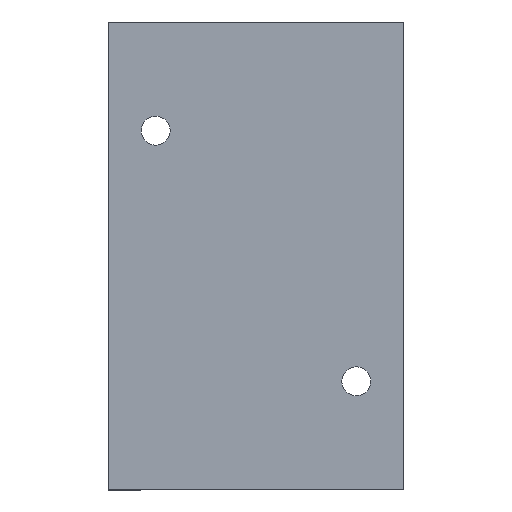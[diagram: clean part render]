
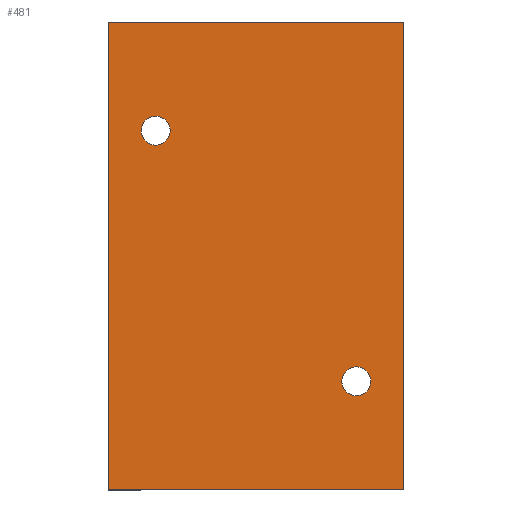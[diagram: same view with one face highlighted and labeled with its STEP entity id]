
A CAD part, front view. The second image highlights one B-rep face of the part: STEP entity #481.
In plain terms, the highlighted planar face has unit normal (0, -1, 0).
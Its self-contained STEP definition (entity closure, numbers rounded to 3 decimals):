
#48 = EDGE_CURVE ( 'NONE', #638, #687, #1235, .T. ) ;
#55 = VECTOR ( 'NONE', #1627, 1000. ) ;
#73 = CIRCLE ( 'NONE', #549, 2.6 ) ;
#113 = VERTEX_POINT ( 'NONE', #1038 ) ;
#124 = EDGE_LOOP ( 'NONE', ( #1065, #1021, #1451, #1618 ) ) ;
#150 = DIRECTION ( 'NONE',  ( 0., 0., -1. ) ) ;
#159 = CARTESIAN_POINT ( 'NONE',  ( -18., -17.5, 22.5 ) ) ;
#170 = CARTESIAN_POINT ( 'NONE',  ( 26.5, -17.5, 42. ) ) ;
#267 = CARTESIAN_POINT ( 'NONE',  ( -26.5, -17.5, 42. ) ) ;
#285 = LINE ( 'NONE', #267, #1516 ) ;
#316 = DIRECTION ( 'NONE',  ( 0., 1., 0. ) ) ;
#345 = EDGE_LOOP ( 'NONE', ( #916, #1480 ) ) ;
#377 = VECTOR ( 'NONE', #1562, 1000. ) ;
#388 = CIRCLE ( 'NONE', #1582, 2.6 ) ;
#403 = PLANE ( 'NONE',  #526 ) ;
#440 = DIRECTION ( 'NONE',  ( 0., -1., 0. ) ) ;
#449 = DIRECTION ( 'NONE',  ( 0., -1., 0. ) ) ;
#468 = DIRECTION ( 'NONE',  ( 0., 0., -1. ) ) ;
#474 = AXIS2_PLACEMENT_3D ( 'NONE', #1427, #449, #468 ) ;
#481 = ADVANCED_FACE ( 'NONE', ( #1655, #1508, #698 ), #403, .F. ) ;
#508 = CARTESIAN_POINT ( 'NONE',  ( 18., -17.5, -25.1 ) ) ;
#516 = CARTESIAN_POINT ( 'NONE',  ( -26.5, -17.5, -42. ) ) ;
#526 = AXIS2_PLACEMENT_3D ( 'NONE', #1293, #316, #1417 ) ;
#540 = EDGE_CURVE ( 'NONE', #1207, #1174, #73, .T. ) ;
#549 = AXIS2_PLACEMENT_3D ( 'NONE', #159, #440, #1006 ) ;
#554 = EDGE_CURVE ( 'NONE', #687, #1334, #1553, .T. ) ;
#566 = DIRECTION ( 'NONE',  ( 0., 0., -1. ) ) ;
#602 = CARTESIAN_POINT ( 'NONE',  ( -26.5, -17.5, 42. ) ) ;
#629 = EDGE_LOOP ( 'NONE', ( #696, #1218 ) ) ;
#638 = VERTEX_POINT ( 'NONE', #602 ) ;
#684 = CARTESIAN_POINT ( 'NONE',  ( 26.5, -17.5, 42. ) ) ;
#687 = VERTEX_POINT ( 'NONE', #684 ) ;
#689 = VERTEX_POINT ( 'NONE', #508 ) ;
#696 = ORIENTED_EDGE ( 'NONE', *, *, #1395, .F. ) ;
#698 = FACE_OUTER_BOUND ( 'NONE', #124, .T. ) ;
#775 = AXIS2_PLACEMENT_3D ( 'NONE', #1416, #830, #566 ) ;
#830 = DIRECTION ( 'NONE',  ( 0., -1., 0. ) ) ;
#839 = CARTESIAN_POINT ( 'NONE',  ( -26.5, -17.5, -42. ) ) ;
#862 = DIRECTION ( 'NONE',  ( 0., 0., -1. ) ) ;
#865 = EDGE_CURVE ( 'NONE', #113, #689, #388, .T. ) ;
#916 = ORIENTED_EDGE ( 'NONE', *, *, #540, .F. ) ;
#961 = CARTESIAN_POINT ( 'NONE',  ( 18., -17.5, -22.5 ) ) ;
#1006 = DIRECTION ( 'NONE',  ( 0., 0., -1. ) ) ;
#1021 = ORIENTED_EDGE ( 'NONE', *, *, #554, .F. ) ;
#1034 = CIRCLE ( 'NONE', #775, 2.6 ) ;
#1038 = CARTESIAN_POINT ( 'NONE',  ( 18., -17.5, -19.9 ) ) ;
#1065 = ORIENTED_EDGE ( 'NONE', *, *, #1245, .T. ) ;
#1174 = VERTEX_POINT ( 'NONE', #1438 ) ;
#1207 = VERTEX_POINT ( 'NONE', #1596 ) ;
#1218 = ORIENTED_EDGE ( 'NONE', *, *, #865, .F. ) ;
#1235 = LINE ( 'NONE', #1384, #1540 ) ;
#1245 = EDGE_CURVE ( 'NONE', #1353, #1334, #1757, .T. ) ;
#1262 = CIRCLE ( 'NONE', #474, 2.6 ) ;
#1293 = CARTESIAN_POINT ( 'NONE',  ( -26.5, -17.5, 42. ) ) ;
#1334 = VERTEX_POINT ( 'NONE', #1388 ) ;
#1353 = VERTEX_POINT ( 'NONE', #839 ) ;
#1384 = CARTESIAN_POINT ( 'NONE',  ( -26.5, -17.5, 42. ) ) ;
#1388 = CARTESIAN_POINT ( 'NONE',  ( 26.5, -17.5, -42. ) ) ;
#1395 = EDGE_CURVE ( 'NONE', #689, #113, #1034, .T. ) ;
#1416 = CARTESIAN_POINT ( 'NONE',  ( 18., -17.5, -22.5 ) ) ;
#1417 = DIRECTION ( 'NONE',  ( 0., 0., 1. ) ) ;
#1427 = CARTESIAN_POINT ( 'NONE',  ( -18., -17.5, 22.5 ) ) ;
#1438 = CARTESIAN_POINT ( 'NONE',  ( -18., -17.5, 25.1 ) ) ;
#1451 = ORIENTED_EDGE ( 'NONE', *, *, #48, .F. ) ;
#1463 = EDGE_CURVE ( 'NONE', #638, #1353, #285, .T. ) ;
#1480 = ORIENTED_EDGE ( 'NONE', *, *, #1549, .F. ) ;
#1508 = FACE_BOUND ( 'NONE', #345, .T. ) ;
#1516 = VECTOR ( 'NONE', #150, 1000. ) ;
#1540 = VECTOR ( 'NONE', #1666, 1000. ) ;
#1549 = EDGE_CURVE ( 'NONE', #1174, #1207, #1262, .T. ) ;
#1553 = LINE ( 'NONE', #170, #377 ) ;
#1562 = DIRECTION ( 'NONE',  ( 0., 0., -1. ) ) ;
#1582 = AXIS2_PLACEMENT_3D ( 'NONE', #961, #1682, #862 ) ;
#1596 = CARTESIAN_POINT ( 'NONE',  ( -18., -17.5, 19.9 ) ) ;
#1618 = ORIENTED_EDGE ( 'NONE', *, *, #1463, .T. ) ;
#1627 = DIRECTION ( 'NONE',  ( 1., 0., 0. ) ) ;
#1655 = FACE_BOUND ( 'NONE', #629, .T. ) ;
#1666 = DIRECTION ( 'NONE',  ( 1., 0., 0. ) ) ;
#1682 = DIRECTION ( 'NONE',  ( 0., -1., 0. ) ) ;
#1757 = LINE ( 'NONE', #516, #55 ) ;
